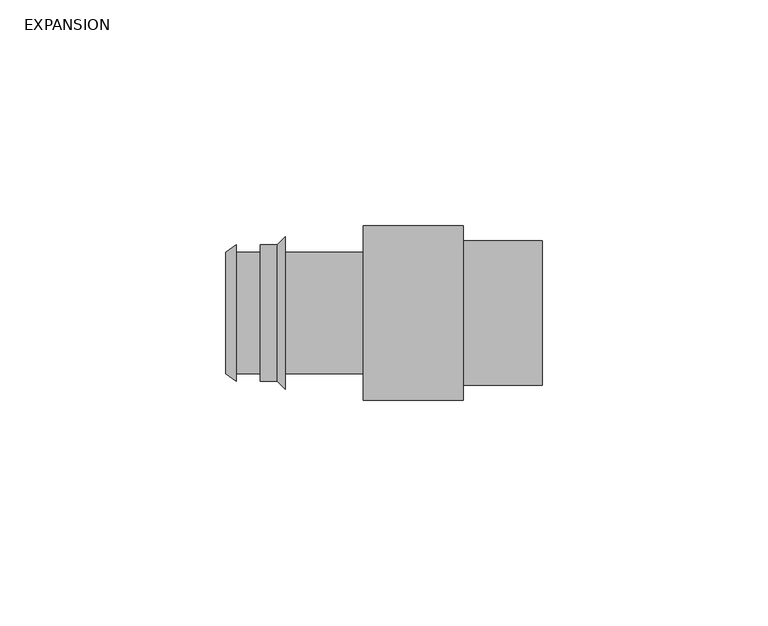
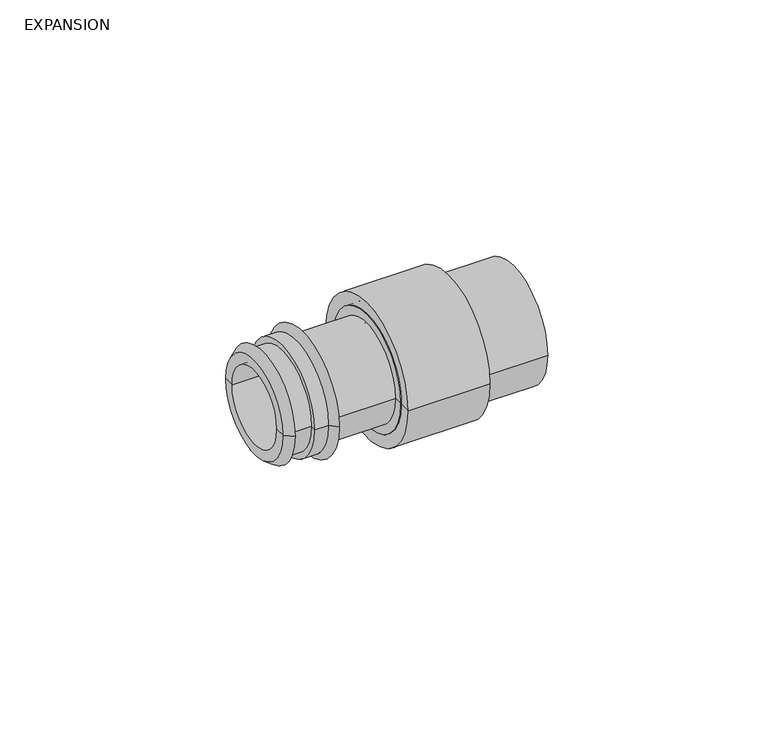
"""IFC4 building model written with IfcOpenShell, lengths in millimetres: valve geometry, Aquatherm - PEX Adapter Expansion : EXPANSION."""

from ifc_helpers import new_model, si_unit, frame, origin, place, context, project, spatial, polyline, circle_curve, source, transform, mapped, element, save
from ifc_brep_helpers import plane_surface, cylinder_surface, revolved_surface, advanced_brep


def expansion_a25346ad(model_context):
    return source(origin(), model_context, "Body", "AdvancedBrep", [
        advanced_brep(
        [(-28.194, -13.462, 0.0), (-28.194, 13.462, 0.0), (-22.86, 13.462, 0.0), (-22.86, -13.462, 0.0), (-28.194, -15.113, 0.0), (-28.194, 15.113, 0.0), (3.175, -10.541, 0.0), (3.175, 10.541, 0.0), (-30.48, 10.541, 0.0), (-30.48, -10.541, 0.0), (3.175, -15.875, 0.0), (3.175, 15.875, 0.0), (0.0, -15.875, 0.0), (0.0, 15.875, 0.0), (0.0, -13.462, 0.0), (0.0, 13.462, 0.0), (-17.272, -13.462, 0.0), (-17.272, 13.462, 0.0), (-17.272, -16.891, 0.0), (-17.272, 16.891, 0.0), (-19.05, -15.113, 0.0), (-19.05, 15.113, 0.0), (-22.86, -15.113, 0.0), (-22.86, 15.113, 0.0), (-30.48, -13.462, 0.0), (-30.48, 13.462, 0.0)],
        [
            (0, 1, circle_curve(frame((-28.194, 0.0, 0.0), z_axis=(1.0, 0.0, 0.0), x_axis=(0.0, 1.0, 0.0)), 13.462)),
            (1, 2),
            (2, 3, circle_curve(frame((-22.86, 0.0, 0.0), z_axis=(-1.0, 0.0, 0.0), x_axis=(0.0, 1.0, 0.0)), 13.462)),
            (3, 0),
            (1, 0, circle_curve(frame((-28.194, 0.0, 0.0), z_axis=(1.0, 0.0, 0.0), x_axis=(0.0, 1.0, 0.0)), 13.462)),
            (3, 2, circle_curve(frame((-22.86, 0.0, 0.0), z_axis=(-1.0, 0.0, 0.0), x_axis=(0.0, 1.0, 0.0)), 13.462)),
            (4, 5, circle_curve(frame((-28.194, 0.0, 0.0), z_axis=(1.0, 0.0, 0.0), x_axis=(0.0, 1.0, 0.0)), 15.113)),
            (5, 1),
            (0, 4),
            (5, 4, circle_curve(frame((-28.194, 0.0, 0.0), z_axis=(1.0, 0.0, 0.0), x_axis=(0.0, 1.0, 0.0)), 15.113)),
            (6, 7, circle_curve(frame((3.175, 0.0, 0.0), z_axis=(1.0, 0.0, 0.0), x_axis=(0.0, 1.0, 0.0)), 10.541)),
            (7, 8),
            (8, 9, circle_curve(frame((-30.48, 0.0, 0.0), z_axis=(-1.0, 0.0, 0.0), x_axis=(0.0, 1.0, 0.0)), 10.541)),
            (9, 6),
            (7, 6, circle_curve(frame((3.175, 0.0, 0.0), z_axis=(1.0, 0.0, 0.0), x_axis=(0.0, 1.0, 0.0)), 10.541)),
            (9, 8, circle_curve(frame((-30.48, 0.0, 0.0), z_axis=(-1.0, 0.0, 0.0), x_axis=(0.0, 1.0, 0.0)), 10.541)),
            (10, 11, circle_curve(frame((3.175, 0.0, 0.0), z_axis=(1.0, 0.0, 0.0), x_axis=(0.0, 1.0, 0.0)), 15.875)),
            (11, 7),
            (6, 10),
            (11, 10, circle_curve(frame((3.175, 0.0, 0.0), z_axis=(1.0, 0.0, 0.0), x_axis=(0.0, 1.0, 0.0)), 15.875)),
            (12, 13, circle_curve(frame((0.0, 0.0, 0.0), z_axis=(1.0, 0.0, 0.0), x_axis=(0.0, 1.0, 0.0)), 15.875)),
            (13, 11),
            (10, 12),
            (13, 12, circle_curve(frame((0.0, 0.0, 0.0), z_axis=(1.0, 0.0, 0.0), x_axis=(0.0, 1.0, 0.0)), 15.875)),
            (14, 15, circle_curve(frame((0.0, 0.0, 0.0), z_axis=(1.0, 0.0, 0.0), x_axis=(0.0, 1.0, 0.0)), 13.462)),
            (15, 13),
            (12, 14),
            (15, 14, circle_curve(frame((0.0, 0.0, 0.0), z_axis=(1.0, 0.0, 0.0), x_axis=(0.0, 1.0, 0.0)), 13.462)),
            (16, 17, circle_curve(frame((-17.272, 0.0, 0.0), z_axis=(1.0, 0.0, 0.0), x_axis=(0.0, 1.0, 0.0)), 13.462)),
            (17, 15),
            (14, 16),
            (17, 16, circle_curve(frame((-17.272, 0.0, 0.0), z_axis=(1.0, 0.0, 0.0), x_axis=(0.0, 1.0, 0.0)), 13.462)),
            (18, 19, circle_curve(frame((-17.272, 0.0, 0.0), z_axis=(1.0, 0.0, 0.0), x_axis=(0.0, 1.0, 0.0)), 16.891)),
            (19, 17),
            (16, 18),
            (19, 18, circle_curve(frame((-17.272, 0.0, 0.0), z_axis=(1.0, 0.0, 0.0), x_axis=(0.0, 1.0, 0.0)), 16.891)),
            (20, 21, circle_curve(frame((-19.05, 0.0, 0.0), z_axis=(1.0, 0.0, 0.0), x_axis=(0.0, 1.0, 0.0)), 15.113)),
            (21, 19),
            (18, 20),
            (21, 20, circle_curve(frame((-19.05, 0.0, 0.0), z_axis=(1.0, 0.0, 0.0), x_axis=(0.0, 1.0, 0.0)), 15.113)),
            (22, 23, circle_curve(frame((-22.86, 0.0, 0.0), z_axis=(1.0, 0.0, 0.0), x_axis=(0.0, 1.0, 0.0)), 15.113)),
            (23, 21),
            (20, 22),
            (23, 22, circle_curve(frame((-22.86, 0.0, 0.0), z_axis=(1.0, 0.0, 0.0), x_axis=(0.0, 1.0, 0.0)), 15.113)),
            (2, 23),
            (22, 3),
            (24, 25, circle_curve(frame((-30.48, 0.0, 0.0), z_axis=(1.0, 0.0, 0.0), x_axis=(0.0, 1.0, 0.0)), 13.462)),
            (25, 5),
            (4, 24),
            (25, 24, circle_curve(frame((-30.48, 0.0, 0.0), z_axis=(1.0, 0.0, 0.0), x_axis=(0.0, 1.0, 0.0)), 13.462)),
            (8, 25),
            (24, 9),
        ],
        [
            cylinder_surface(frame((-42.037, 0.0, 0.0), z_axis=(-1.0, 0.0, 0.0), x_axis=(0.0, 1.0, 0.0)), 13.462),
            plane_surface(frame((-28.194, 0.0, 0.0), z_axis=(1.0, 0.0, 0.0), x_axis=(0.0, 1.0, 0.0))),
            revolved_surface(polyline([(-30.48, 10.541, 0.0), (3.174999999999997, 10.541, 0.0)]), (-42.037, 0.0, 0.0), (-1.0, 0.0, 0.0)),
            plane_surface(frame((3.175, 0.0, 0.0), z_axis=(1.0, 0.0, 0.0), x_axis=(0.0, 1.0, 0.0))),
            cylinder_surface(frame((-42.037, 0.0, 0.0), z_axis=(-1.0, 0.0, 0.0), x_axis=(0.0, 1.0, 0.0)), 15.875),
            plane_surface(frame((0.0, 0.0, 0.0), z_axis=(-1.0, 0.0, 0.0), x_axis=(0.0, 1.0, 0.0))),
            plane_surface(frame((-17.272, 0.0, 0.0), z_axis=(1.0, 0.0, 0.0), x_axis=(0.0, 1.0, 0.0))),
            revolved_surface(polyline([(-17.272, 16.891, 0.0), (-19.05, 15.113, 0.0)]), (-42.037, 0.0, 0.0), (-1.0, 0.0, 0.0)),
            cylinder_surface(frame((-42.037, 0.0, 0.0), z_axis=(-1.0, 0.0, 0.0), x_axis=(0.0, 1.0, 0.0)), 15.113),
            plane_surface(frame((-22.86, 0.0, 0.0), z_axis=(-1.0, 0.0, 0.0), x_axis=(0.0, 1.0, 0.0))),
            revolved_surface(polyline([(-28.194, 15.113, 0.0), (-30.48, 13.462, 0.0)]), (-42.037, 0.0, 0.0), (-1.0, 0.0, 0.0)),
            plane_surface(frame((-30.48, 0.0, 0.0), z_axis=(-1.0, 0.0, 0.0), x_axis=(0.0, 1.0, 0.0))),
        ],
        [
            (0, [[1, 2, 3, 4]]),
            (0, [[5, -4, 6, -2]]),
            (1, [[7, 8, -1, 9]]),
            (1, [[10, -9, -5, -8]]),
            (2, [[11, 12, 13, 14]]),
            (2, [[15, -14, 16, -12]]),
            (3, [[17, 18, -11, 19]]),
            (3, [[20, -19, -15, -18]]),
            (4, [[21, 22, -17, 23]]),
            (4, [[24, -23, -20, -22]]),
            (5, [[25, 26, -21, 27]]),
            (5, [[28, -27, -24, -26]]),
            (0, [[29, 30, -25, 31]]),
            (0, [[32, -31, -28, -30]]),
            (6, [[33, 34, -29, 35]]),
            (6, [[36, -35, -32, -34]]),
            (7, [[37, 38, -33, 39]]),
            (7, [[40, -39, -36, -38]]),
            (8, [[41, 42, -37, 43]]),
            (8, [[44, -43, -40, -42]]),
            (9, [[-3, 45, -41, 46]]),
            (9, [[-6, -46, -44, -45]]),
            (10, [[47, 48, -7, 49]]),
            (10, [[50, -49, -10, -48]]),
            (11, [[-13, 51, -47, 52]]),
            (11, [[-16, -52, -50, -51]]),
        ],
    ),
        advanced_brep(
        [(0.0, -19.304, 0.0), (0.0, 19.304, 0.0), (22.098, 19.304, 0.0), (22.098, -19.304, 0.0), (0.0, -15.875, 0.0), (0.0, 15.875, 0.0), (3.175, -15.875, 0.0), (3.175, 15.875, 0.0), (3.175, -10.541, 0.0), (3.175, 10.541, 0.0), (39.624, -10.541, 0.0), (39.624, 10.541, 0.0), (39.624, -16.002, 0.0), (39.624, 16.002, 0.0), (22.098, -16.002, 0.0), (22.098, 16.002, 0.0)],
        [
            (0, 1, circle_curve(frame((0.0, 0.0, 0.0), z_axis=(1.0, 0.0, 0.0), x_axis=(0.0, 1.0, 0.0)), 19.304)),
            (1, 2),
            (2, 3, circle_curve(frame((22.098, 0.0, 0.0), z_axis=(-1.0, 0.0, 0.0), x_axis=(0.0, 1.0, 0.0)), 19.304)),
            (3, 0),
            (1, 0, circle_curve(frame((0.0, 0.0, 0.0), z_axis=(1.0, 0.0, 0.0), x_axis=(0.0, 1.0, 0.0)), 19.304)),
            (3, 2, circle_curve(frame((22.098, 0.0, 0.0), z_axis=(-1.0, 0.0, 0.0), x_axis=(0.0, 1.0, 0.0)), 19.304)),
            (4, 5, circle_curve(frame((0.0, 0.0, 0.0), z_axis=(1.0, 0.0, 0.0), x_axis=(0.0, 1.0, 0.0)), 15.875)),
            (5, 1),
            (0, 4),
            (5, 4, circle_curve(frame((0.0, 0.0, 0.0), z_axis=(1.0, 0.0, 0.0), x_axis=(0.0, 1.0, 0.0)), 15.875)),
            (6, 7, circle_curve(frame((3.175, 0.0, 0.0), z_axis=(1.0, 0.0, 0.0), x_axis=(0.0, 1.0, 0.0)), 15.875)),
            (7, 5),
            (4, 6),
            (7, 6, circle_curve(frame((3.175, 0.0, 0.0), z_axis=(1.0, 0.0, 0.0), x_axis=(0.0, 1.0, 0.0)), 15.875)),
            (8, 9, circle_curve(frame((3.175, 0.0, 0.0), z_axis=(1.0, 0.0, 0.0), x_axis=(0.0, 1.0, 0.0)), 10.541)),
            (9, 7),
            (6, 8),
            (9, 8, circle_curve(frame((3.175, 0.0, 0.0), z_axis=(1.0, 0.0, 0.0), x_axis=(0.0, 1.0, 0.0)), 10.541)),
            (10, 11, circle_curve(frame((39.624, 0.0, 0.0), z_axis=(1.0, 0.0, 0.0), x_axis=(0.0, 1.0, 0.0)), 10.541)),
            (11, 9),
            (8, 10),
            (11, 10, circle_curve(frame((39.624, 0.0, 0.0), z_axis=(1.0, 0.0, 0.0), x_axis=(0.0, 1.0, 0.0)), 10.541)),
            (12, 13, circle_curve(frame((39.624, 0.0, 0.0), z_axis=(1.0, 0.0, 0.0), x_axis=(0.0, 1.0, 0.0)), 16.002)),
            (13, 11),
            (10, 12),
            (13, 12, circle_curve(frame((39.624, 0.0, 0.0), z_axis=(1.0, 0.0, 0.0), x_axis=(0.0, 1.0, 0.0)), 16.002)),
            (14, 15, circle_curve(frame((22.098, 0.0, 0.0), z_axis=(1.0, 0.0, 0.0), x_axis=(0.0, 1.0, 0.0)), 16.002)),
            (15, 13),
            (12, 14),
            (15, 14, circle_curve(frame((22.098, 0.0, 0.0), z_axis=(1.0, 0.0, 0.0), x_axis=(0.0, 1.0, 0.0)), 16.002)),
            (2, 15),
            (14, 3),
        ],
        [
            cylinder_surface(frame((-55.88, 0.0, 0.0), z_axis=(-1.0, 0.0, 0.0), x_axis=(0.0, 1.0, 0.0)), 19.304),
            plane_surface(frame((0.0, 0.0, 0.0), z_axis=(-1.0, 0.0, 0.0), x_axis=(0.0, 1.0, 0.0))),
            revolved_surface(polyline([(0.0, 15.875, 0.0), (3.174999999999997, 15.875, 0.0)]), (-55.88, 0.0, 0.0), (-1.0, 0.0, 0.0)),
            plane_surface(frame((3.175, 0.0, 0.0), z_axis=(-1.0, 0.0, 0.0), x_axis=(0.0, 1.0, 0.0))),
            revolved_surface(polyline([(3.174999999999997, 10.541, 0.0), (39.624, 10.541, 0.0)]), (-55.88, 0.0, 0.0), (-1.0, 0.0, 0.0)),
            plane_surface(frame((39.624, 0.0, 0.0), z_axis=(1.0, 0.0, 0.0), x_axis=(0.0, 1.0, 0.0))),
            cylinder_surface(frame((-55.88, 0.0, 0.0), z_axis=(-1.0, 0.0, 0.0), x_axis=(0.0, 1.0, 0.0)), 16.002),
            plane_surface(frame((22.098, 0.0, 0.0), z_axis=(1.0, 0.0, 0.0), x_axis=(0.0, 1.0, 0.0))),
        ],
        [
            (0, [[1, 2, 3, 4]]),
            (0, [[5, -4, 6, -2]]),
            (1, [[7, 8, -1, 9]]),
            (1, [[10, -9, -5, -8]]),
            (2, [[11, 12, -7, 13]]),
            (2, [[14, -13, -10, -12]]),
            (3, [[15, 16, -11, 17]]),
            (3, [[18, -17, -14, -16]]),
            (4, [[19, 20, -15, 21]]),
            (4, [[22, -21, -18, -20]]),
            (5, [[23, 24, -19, 25]]),
            (5, [[26, -25, -22, -24]]),
            (6, [[27, 28, -23, 29]]),
            (6, [[30, -29, -26, -28]]),
            (7, [[-3, 31, -27, 32]]),
            (7, [[-6, -32, -30, -31]]),
        ],
    ),
    ])


if __name__ == "__main__":
    model = new_model("IFC4")
    model_context = context("Model", 3, world=origin())
    ifc_project = project(units=[si_unit("LENGTHUNIT", "METRE", prefix="MILLI")], contexts=[model_context])
    site = spatial("IfcSite", under=ifc_project)
    building = spatial("IfcBuilding", under=site)
    placement = place(None, origin())
    expansion_shape = expansion_a25346ad(model_context)
    element("IfcValve", 1, ObjectType="Aquatherm - PEX Adapter Expansion : EXPANSION", at=placement, inside=building, context=model_context, shape_type="MappedRepresentation", body=[
        mapped(expansion_shape, transform((0.0, 0.0, 0.0), x_axis=(1.0, 0.0, 0.0), y_axis=(0.0, 1.0, 0.0), z_axis=(0.0, 0.0, 1.0))),
    ])
    save(model, "model.ifc")
